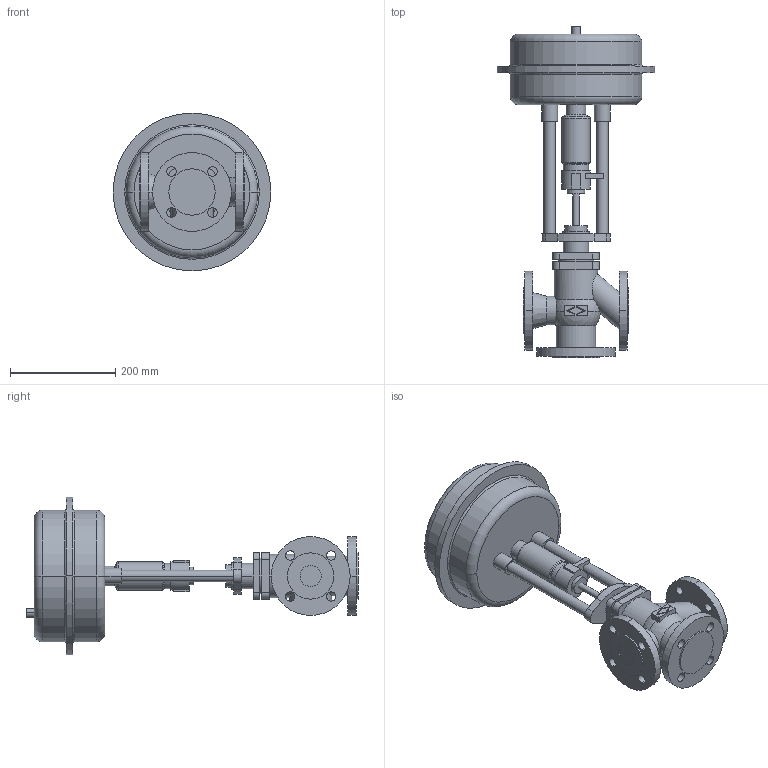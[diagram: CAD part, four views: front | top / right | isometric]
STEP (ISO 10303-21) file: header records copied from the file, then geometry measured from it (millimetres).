
FILE_DESCRIPTION(('OneSpaceDesigner STEP Export'),'2;1');
FILE_NAME('c000000684.stp','2006-09-19T10:12:52',(''),(''),'OneSpace Designer STEP processor for AP214 (Solid Model)','OneSpace Designer 13.20A 18-Aug-2005 (C) CoCreate Software GmbH','');
FILE_SCHEMA(('AUTOMOTIVE_DESIGN { 1 0 10303 214 1 1 1 1 }'));
Length unit declared in the file: millimetre
Products named in the file (2): 1; 2
Bounding box: 300 x 631.1 x 300 mm (x, y, z)
Volume: 9685993.8 mm3; surface area: 536735.1 mm2
Topology: 2 solids, 2 shells, 203 faces, 488 edges, 317 vertices
Faces by surface type: cylinder 98, plane 77, torus 16, sphere 6, cone 6
Entity records: 5673 total; most frequent: CARTESIAN_POINT 1310, ORIENTED_EDGE 976, DIRECTION 796, EDGE_CURVE 488, VERTEX_POINT 317, AXIS2_PLACEMENT_3D 291, EDGE_LOOP 255, VECTOR 214
